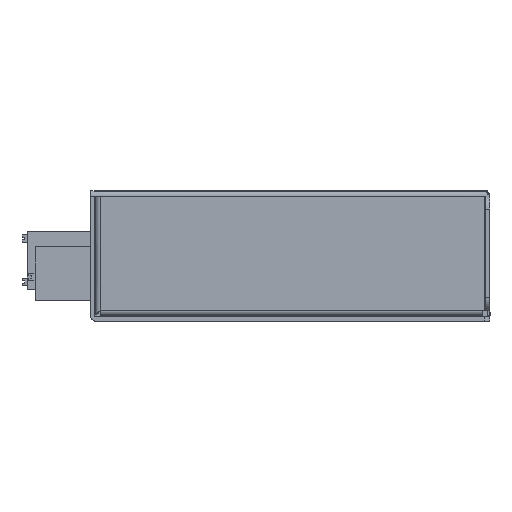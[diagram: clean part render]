
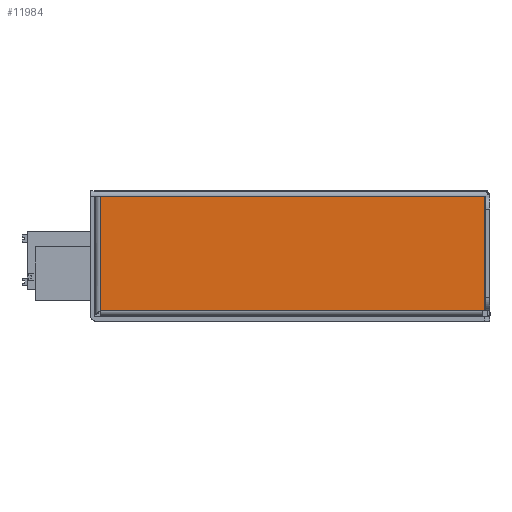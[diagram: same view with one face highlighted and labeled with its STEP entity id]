
A CAD part, left-side view. The second image highlights one B-rep face of the part: STEP entity #11984.
In plain terms, the highlighted planar face has unit normal (-1, 0, 0).
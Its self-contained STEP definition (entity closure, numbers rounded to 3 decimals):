
#73 = DIRECTION ( 'NONE',  ( 0., -1., 0. ) ) ;
#445 = LINE ( 'NONE', #7952, #4135 ) ;
#589 = DIRECTION ( 'NONE',  ( 1., 0., 0. ) ) ;
#675 = AXIS2_PLACEMENT_3D ( 'NONE', #1755, #589, #8488 ) ;
#764 = ORIENTED_EDGE ( 'NONE', *, *, #10344, .F. ) ;
#996 = CARTESIAN_POINT ( 'NONE',  ( -69., -43.793, -27.6 ) ) ;
#1755 = CARTESIAN_POINT ( 'NONE',  ( -69., 0., -1. ) ) ;
#2194 = VECTOR ( 'NONE', #7246, 1000. ) ;
#2479 = CARTESIAN_POINT ( 'NONE',  ( -69., 44.3, -1.2 ) ) ;
#2502 = VERTEX_POINT ( 'NONE', #13936 ) ;
#2859 = VECTOR ( 'NONE', #3442, 1000. ) ;
#2862 = ORIENTED_EDGE ( 'NONE', *, *, #10585, .F. ) ;
#3345 = VERTEX_POINT ( 'NONE', #996 ) ;
#3389 = CARTESIAN_POINT ( 'NONE',  ( -69., 44.3, -27.6 ) ) ;
#3442 = DIRECTION ( 'NONE',  ( 0., -1., 0. ) ) ;
#3562 = FACE_OUTER_BOUND ( 'NONE', #7735, .T. ) ;
#3965 = CARTESIAN_POINT ( 'NONE',  ( -69., -44.3, -1.2 ) ) ;
#3985 = EDGE_CURVE ( 'NONE', #5735, #3345, #5822, .T. ) ;
#4135 = VECTOR ( 'NONE', #10138, 1000. ) ;
#5284 = EDGE_CURVE ( 'NONE', #8369, #5735, #14264, .T. ) ;
#5735 = VERTEX_POINT ( 'NONE', #7624 ) ;
#5773 = ORIENTED_EDGE ( 'NONE', *, *, #3985, .T. ) ;
#5822 = LINE ( 'NONE', #3389, #2859 ) ;
#5856 = LINE ( 'NONE', #3965, #2194 ) ;
#6688 = CARTESIAN_POINT ( 'NONE',  ( -69., -45.5, -1.2 ) ) ;
#7246 = DIRECTION ( 'NONE',  ( 0., 0., -1. ) ) ;
#7301 = PLANE ( 'NONE',  #675 ) ;
#7624 = CARTESIAN_POINT ( 'NONE',  ( -69., 44.3, -27.6 ) ) ;
#7735 = EDGE_LOOP ( 'NONE', ( #2862, #764, #7869, #5773, #12417 ) ) ;
#7869 = ORIENTED_EDGE ( 'NONE', *, *, #5284, .T. ) ;
#7952 = CARTESIAN_POINT ( 'NONE',  ( -69., -45.5, -27.6 ) ) ;
#8369 = VERTEX_POINT ( 'NONE', #2479 ) ;
#8473 = VERTEX_POINT ( 'NONE', #12807 ) ;
#8488 = DIRECTION ( 'NONE',  ( 0., 0., -1. ) ) ;
#9047 = CARTESIAN_POINT ( 'NONE',  ( -69., 44.3, -1.2 ) ) ;
#10028 = VECTOR ( 'NONE', #73, 1000. ) ;
#10138 = DIRECTION ( 'NONE',  ( 0., 1., 0. ) ) ;
#10344 = EDGE_CURVE ( 'NONE', #8369, #2502, #10901, .T. ) ;
#10368 = EDGE_CURVE ( 'NONE', #8473, #3345, #445, .T. ) ;
#10585 = EDGE_CURVE ( 'NONE', #2502, #8473, #5856, .T. ) ;
#10901 = LINE ( 'NONE', #6688, #10028 ) ;
#11346 = VECTOR ( 'NONE', #12206, 1000. ) ;
#11984 = ADVANCED_FACE ( 'NONE', ( #3562 ), #7301, .F. ) ;
#12206 = DIRECTION ( 'NONE',  ( 0., 0., -1. ) ) ;
#12417 = ORIENTED_EDGE ( 'NONE', *, *, #10368, .F. ) ;
#12807 = CARTESIAN_POINT ( 'NONE',  ( -69., -44.3, -27.6 ) ) ;
#13936 = CARTESIAN_POINT ( 'NONE',  ( -69., -44.3, -1.2 ) ) ;
#14264 = LINE ( 'NONE', #9047, #11346 ) ;
